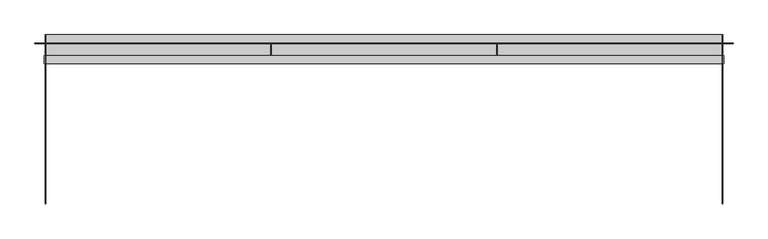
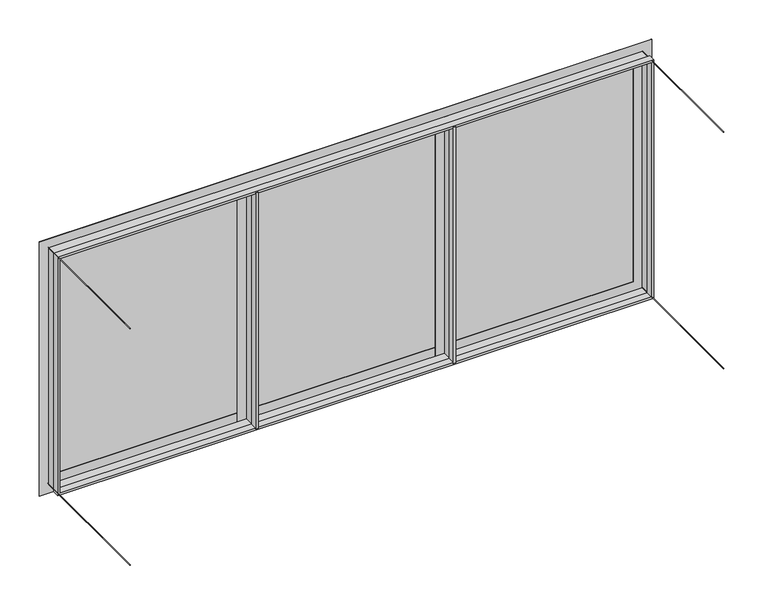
"""IFC4 building model written with IfcOpenShell, lengths in millimetres: plate geometry, Flush Ceiling Panel with Tee and Cable Ties (3 Segments) : Ceiling Panel (Vinyl) with Tee and Cable Ties Edge."""

import ifcopenshell
import ifcopenshell.guid

model = None  # the IFC model being written
_history = None  # IfcOwnerHistory: only IFC2X3 demands one
_inside = {}  # id of a spatial element -> (the spatial element, [elements in it])
_under = {}  # id of a project, library or spatial element -> (it, [spatial elements below it])
_declared = {}  # id of a project -> (the project, [libraries it declares])
_typed = {}  # id of a type object -> (the type object, [elements of that type])
_made_of = {}  # id of a material, layer set ... -> (it, [elements and type objects made of it])


def new_model(schema):
    """Start an empty IFC model of exactly this schema.

    Asked for "IFC4X3", IfcOpenShell would pick the latest addendum, in which some entities
    have other attributes; the version numbers below select the first issue.
    IFC2X3 requires an IfcOwnerHistory on every rooted entity: one is made here for all.
    """
    global model, _history
    if schema == "IFC4X3":
        model = ifcopenshell.file(schema_version=(4, 3, 0, 0))
    else:
        model = ifcopenshell.file(schema=schema)
    _inside.clear()
    _under.clear()
    _declared.clear()
    _typed.clear()
    _made_of.clear()
    _history = None
    if model.schema == "IFC2X3":
        org = make("IfcOrganization", Name="unknown")
        user = make(
            "IfcPersonAndOrganization",
            ThePerson=make("IfcPerson", FamilyName="unknown"),
            TheOrganization=org,
        )
        app = make(
            "IfcApplication",
            ApplicationDeveloper=org,
            Version="unknown",
            ApplicationFullName="unknown",
            ApplicationIdentifier="unknown",
        )
        _history = make(
            "IfcOwnerHistory",
            OwningUser=user,
            OwningApplication=app,
            ChangeAction="ADDED",
            CreationDate=0,
        )
    return model


def make(cls, **values):
    """One entity of the class cls with the attributes given. An attribute that is None is left unset."""
    return model.create_entity(
        cls, **{name: value for name, value in values.items() if value is not None}
    )


def rooted(cls, **values):
    """An entity with a GlobalId (a new one), such as an element, a storey or a relation."""
    return make(cls, GlobalId=ifcopenshell.guid.new(), OwnerHistory=_history, **values)


def si_unit(unit_type, name, prefix=None):
    """IfcSIUnit, for example si_unit("LENGTHUNIT", "METRE", prefix="MILLI")."""
    return make("IfcSIUnit", UnitType=unit_type, Prefix=prefix, Name=name)


def assignment(units):
    """IfcUnitAssignment: the units of a project."""
    return None if units is None else make("IfcUnitAssignment", Units=units)


def point(xyz):
    """IfcCartesianPoint."""
    return None if xyz is None else make("IfcCartesianPoint", Coordinates=xyz)


def direction(xyz):
    """IfcDirection."""
    return None if xyz is None else make("IfcDirection", DirectionRatios=xyz)


def frame(location, z_axis=None, x_axis=None):
    """IfcAxis2Placement3D, a coordinate frame: its origin and axes. An axis left out is left unset."""
    return make(
        "IfcAxis2Placement3D",
        Location=point(location),
        Axis=direction(z_axis),
        RefDirection=direction(x_axis),
    )


def frame_2d(location, x_axis=None):
    """IfcAxis2Placement2D, a coordinate frame in the plane: its origin and x axis."""
    return make(
        "IfcAxis2Placement2D", Location=point(location), RefDirection=direction(x_axis)
    )


def origin():
    """The frame at (0, 0, 0) with its axes left unset."""
    return frame((0.0, 0.0, 0.0))


def origin_with_axes():
    """The frame at (0, 0, 0) with the z axis (0, 0, 1) and the x axis (1, 0, 0) written out."""
    return frame((0.0, 0.0, 0.0), z_axis=(0.0, 0.0, 1.0), x_axis=(1.0, 0.0, 0.0))


def place(relative_to, where):
    """IfcLocalPlacement: puts the frame where relative to a parent placement (None: the world)."""
    return make(
        "IfcLocalPlacement", PlacementRelTo=relative_to, RelativePlacement=where
    )


def context(
    kind, dimensions, precision=None, world=None, true_north=None, identifier=None
):
    """IfcGeometricRepresentationContext, for example the 3D "Model" context."""
    return make(
        "IfcGeometricRepresentationContext",
        ContextIdentifier=identifier,
        ContextType=kind,
        CoordinateSpaceDimension=dimensions,
        Precision=precision,
        WorldCoordinateSystem=world,
        TrueNorth=true_north,
    )


def project(units=None, contexts=None):
    """IfcProject with its units and contexts."""
    return rooted(
        "IfcProject",
        Name="project",
        RepresentationContexts=contexts,
        UnitsInContext=assignment(units),
    )


def spatial(cls, under=None, at=None, **own):
    """A site, building, storey or space (cls), placed at a placement, below another one or the project."""
    s = rooted(cls, ObjectPlacement=at, **own)
    if under is not None:
        _under.setdefault(under.id(), (under, []))[1].append(s)
    return s


def polyline(points):
    """IfcPolyline through the points."""
    return make("IfcPolyline", Points=[point(p) for p in points])


def circle_curve(where, radius):
    """IfcCircle in the frame where."""
    return make("IfcCircle", Position=where, Radius=radius)


def trimmed(basis, trim1, trim2, sense, master):
    """IfcTrimmedCurve: the piece of a basis curve between two trims."""
    return make(
        "IfcTrimmedCurve",
        BasisCurve=basis,
        Trim1=trim1,
        Trim2=trim2,
        SenseAgreement=sense,
        MasterRepresentation=master,
    )


def segment(curve, same_sense, transition):
    """IfcCompositeCurveSegment."""
    return make(
        "IfcCompositeCurveSegment",
        Transition=transition,
        SameSense=same_sense,
        ParentCurve=curve,
    )


def composite_curve(segments, self_intersect=None):
    """IfcCompositeCurve: segments joined end to end."""
    return make("IfcCompositeCurve", Segments=segments, SelfIntersect=self_intersect)


def outline(outer, holes=None, kind="AREA"):
    """IfcArbitraryClosedProfileDef: a profile drawn as a closed curve; with holes, ...WithVoids."""
    if holes is None:
        return make("IfcArbitraryClosedProfileDef", ProfileType=kind, OuterCurve=outer)
    return make(
        "IfcArbitraryProfileDefWithVoids",
        ProfileType=kind,
        OuterCurve=outer,
        InnerCurves=holes,
    )


def extrude(swept, where, along, depth):
    """IfcExtrudedAreaSolid: the profile swept, set in the frame where, extruded along a direction by depth."""
    return make(
        "IfcExtrudedAreaSolid",
        SweptArea=swept,
        Position=where,
        ExtrudedDirection=direction(along),
        Depth=depth,
    )


def faces_of(points, faces, orient=None, outer=None):
    """IfcFace entities. A face is a list of loops; a loop is a list of indices into points, from 0.

    orient and outer hold one flag for each loop. By default every Orientation is true, the
    first loop of a face is its IfcFaceOuterBound and the others are IfcFaceBound.
    """
    made = []
    for i, loops in enumerate(faces):
        bounds = []
        for j, loop in enumerate(loops):
            is_outer = j == 0 if outer is None else outer[i][j]
            bounds.append(
                make(
                    "IfcFaceOuterBound" if is_outer else "IfcFaceBound",
                    Bound=make("IfcPolyLoop", Polygon=[points[k] for k in loop]),
                    Orientation=True if orient is None else orient[i][j],
                )
            )
        made.append(make("IfcFace", Bounds=bounds))
    return made


def faceted_brep(points, faces, orient=None, outer=None, voids=None):
    """IfcFacetedBrep: a solid bounded by flat faces; with voids (closed shells), ...WithVoids."""
    shared = [point(p) for p in points]
    hull = make("IfcClosedShell", CfsFaces=faces_of(shared, faces, orient, outer))
    if voids is None:
        return make("IfcFacetedBrep", Outer=hull)
    return make(
        "IfcFacetedBrepWithVoids",
        Outer=hull,
        Voids=[
            make(cls, CfsFaces=faces_of(shared, fs, o, b)) for cls, fs, o, b in voids
        ],
    )


def shape(context_of_items, identifier, shape_type, items):
    """IfcShapeRepresentation: the items that make up one representation, for example the "Body"."""
    return make(
        "IfcShapeRepresentation",
        ContextOfItems=context_of_items,
        RepresentationIdentifier=identifier,
        RepresentationType=shape_type,
        Items=items,
    )


def source(mapping_origin, context_of_items, identifier, shape_type, items):
    """IfcRepresentationMap: a shape defined once, which mapped items show again and again."""
    return make(
        "IfcRepresentationMap",
        MappingOrigin=mapping_origin,
        MappedRepresentation=shape(context_of_items, identifier, shape_type, items),
    )


def transform(
    local_origin,
    x_axis=None,
    y_axis=None,
    z_axis=None,
    scale=None,
    scale2=None,
    scale3=None,
    uniform=True,
):
    """IfcCartesianTransformationOperator3D, or its non-uniform kind. x_axis, y_axis, z_axis: its Axis1, 2, 3."""
    if uniform:
        return make(
            "IfcCartesianTransformationOperator3D",
            Axis1=direction(x_axis),
            Axis2=direction(y_axis),
            LocalOrigin=point(local_origin),
            Scale=scale,
            Axis3=direction(z_axis),
        )
    return make(
        "IfcCartesianTransformationOperator3DnonUniform",
        Axis1=direction(x_axis),
        Axis2=direction(y_axis),
        LocalOrigin=point(local_origin),
        Scale=scale,
        Axis3=direction(z_axis),
        Scale2=scale2,
        Scale3=scale3,
    )


def mapped(mapping_source, mapping_target):
    """IfcMappedItem: shows the shape of a source again, moved by a transform."""
    return make(
        "IfcMappedItem", MappingSource=mapping_source, MappingTarget=mapping_target
    )


def made_of(thing, what):
    """Note that an element or type object is made of a material, layer set ...; save() writes the relation."""
    if what is not None:
        _made_of.setdefault(what.id(), (what, []))[1].append(thing)
    return thing


def element(
    cls,
    number,
    at=None,
    inside=None,
    cuts=None,
    type_object=None,
    material=None,
    context=None,
    identifier="Body",
    shape_type=None,
    held_by="IfcProductDefinitionShape",
    body=None,
    shapes=None,
    **own,
):
    """One element of the class cls, such as IfcWall. Its Tag is "e" and its number.

    at: its placement. inside: the storey or other place that contains it. cuts: it is an
    opening in that element (IfcRelVoidsElement). A single representation is given by context,
    identifier, shape_type and body (its items); several are given by shapes. held_by: the class
    of the entity that holds the representations. save() writes the other relations.
    """
    e = rooted(cls, Tag="e%d" % number, ObjectPlacement=at, **own)
    if body is not None:
        shapes = [shape(context, identifier, shape_type, body)]
    if shapes is not None:
        e.Representation = make(held_by, Representations=shapes)
    if inside is not None:
        _inside.setdefault(inside.id(), (inside, []))[1].append(e)
    if cuts is not None:
        rooted(
            "IfcRelVoidsElement", RelatingBuildingElement=cuts, RelatedOpeningElement=e
        )
    if type_object is not None:
        _typed.setdefault(type_object.id(), (type_object, []))[1].append(e)
    return made_of(e, material)


def aggregate(whole, parts):
    """IfcRelAggregates: a whole, such as a stair, and the parts it consists of."""
    return rooted("IfcRelAggregates", RelatingObject=whole, RelatedObjects=parts)


def save(model, path):
    """Write the relations noted so far, then the file.

    IfcRelAggregates (storeys below a building ...), IfcRelContainedInSpatialStructure (elements
    in a storey), IfcRelDefinesByType, IfcRelAssociatesMaterial and IfcRelDeclares: one each for
    every whole, place, type object, material and project.
    """
    for whole, parts in _under.values():
        aggregate(whole, parts)
    for where, things in _inside.values():
        rooted(
            "IfcRelContainedInSpatialStructure",
            RelatedElements=things,
            RelatingStructure=where,
        )
    for kind, things in _typed.values():
        rooted("IfcRelDefinesByType", RelatedObjects=things, RelatingType=kind)
    for what, things in _made_of.values():
        rooted("IfcRelAssociatesMaterial", RelatedObjects=things, RelatingMaterial=what)
    for by, libraries in _declared.values():
        rooted("IfcRelDeclares", RelatingContext=by, RelatedDefinitions=libraries)
    model.write(path)


def plate_05c5f138(model_context):
    return source(origin(), model_context, "Body", "SolidModel", [
        extrude(outline(composite_curve([segment(trimmed(circle_curve(frame_2d((505.0, 600.0000002)), 0.5), [point((505.0, 600.5000002))], [point((505.0, 599.5000002))], False, "CARTESIAN"), True, "CONTINUOUS"), segment(trimmed(circle_curve(frame_2d((505.0, 600.0000002)), 0.5), [point((505.0, 599.5000002))], [point((505.0, 600.5000002))], False, "CARTESIAN"), True, "CONTINUOUS")], self_intersect=False)), frame((0.0, -300.0, 0.0), z_axis=(0.0, 1.0, 0.0), x_axis=(0.0, 0.0, 1.0)), (0.0, 0.0, 1.0), 300.0),
        extrude(outline(composite_curve([segment(trimmed(circle_curve(frame_2d((505.0, -600.0000002)), 0.5), [point((505.0, -599.5000002))], [point((505.0, -600.5000002))], False, "CARTESIAN"), True, "CONTINUOUS"), segment(trimmed(circle_curve(frame_2d((505.0, -600.0000002)), 0.5), [point((505.0, -600.5000002))], [point((505.0, -599.5000002))], False, "CARTESIAN"), True, "CONTINUOUS")], self_intersect=False)), frame((0.0, -300.0, 0.0), z_axis=(0.0, 1.0, 0.0), x_axis=(0.0, 0.0, 1.0)), (0.0, 0.0, 1.0), 300.0),
        extrude(outline(composite_curve([segment(trimmed(circle_curve(frame_2d((0.0, 600.0000002)), 0.5), [point((0.0, 600.5000002))], [point((0.0, 599.5000002))], False, "CARTESIAN"), True, "CONTINUOUS"), segment(trimmed(circle_curve(frame_2d((0.0, 600.0000002)), 0.5), [point((0.0, 599.5000002))], [point((0.0, 600.5000002))], False, "CARTESIAN"), True, "CONTINUOUS")], self_intersect=False)), frame((0.0, -300.0, 0.0), z_axis=(0.0, 1.0, 0.0), x_axis=(0.0, 0.0, 1.0)), (0.0, 0.0, 1.0), 300.0),
        extrude(outline(composite_curve([segment(trimmed(circle_curve(frame_2d((0.0, -600.0000002)), 0.5), [point((0.0, -599.5000002))], [point((0.0, -600.5000002))], False, "CARTESIAN"), True, "CONTINUOUS"), segment(trimmed(circle_curve(frame_2d((0.0, -600.0000002)), 0.5), [point((0.0, -600.5000002))], [point((0.0, -599.5000002))], False, "CARTESIAN"), True, "CONTINUOUS")], self_intersect=False)), frame((0.0, -300.0, 0.0), z_axis=(0.0, 1.0, 0.0), x_axis=(0.0, 0.0, 1.0)), (0.0, 0.0, 1.0), 300.0),
        extrude(outline(polyline([(219.0000001, -15.0), (219.0000001, -16.0), (200.5000001, -16.0), (200.5000001, -37.0), (202.5000001, -37.0), (202.5000001, -51.0), (197.5000001, -51.0), (197.5000001, -37.0), (199.5000001, -37.0), (199.5000001, -16.0), (181.0000001, -16.0), (181.0000001, -15.0), (219.0000001, -15.0)])), origin_with_axes(), (0.0, 0.0, 1.0), 505.0),
        extrude(outline(polyline([(-181.0000001, -15.0), (-181.0000001, -16.0), (-199.5000001, -16.0), (-199.5000001, -37.0), (-197.5000001, -37.0), (-197.5000001, -51.0), (-202.5000001, -51.0), (-202.5000001, -37.0), (-200.5000001, -37.0), (-200.5000001, -16.0), (-219.0000001, -16.0), (-219.0000001, -15.0), (-181.0000001, -15.0)])), origin_with_axes(), (0.0, 0.0, 1.0), 505.0),
        faceted_brep([(581.0000002, -16.0, 486.0), (581.0000002, -15.0, 486.0), (581.0000002, -15.0, 19.0), (581.0000002, -16.0, 19.0), (599.5000002, -37.0, 504.5), (599.5000002, -16.0, 504.5), (599.5000002, -16.0, 0.5), (599.5000002, -37.0, 0.5), (597.5000002, -51.0, 502.5), (597.5000002, -37.0, 502.5), (597.5000002, -37.0, 2.5), (597.5000002, -51.0, 2.5), (602.5000002, -37.0, 507.5), (602.5000002, -51.0, 507.5), (602.5000002, -51.0, -2.5), (602.5000002, -37.0, -2.5), (600.5000002, -16.0, 505.5), (600.5000002, -37.0, 505.5), (600.5000002, -37.0, -0.5), (600.5000002, -16.0, -0.5), (619.0000002, -15.0, 524.0), (619.0000002, -16.0, 524.0), (619.0000002, -16.0, -19.0), (619.0000002, -15.0, -19.0), (-581.0000002, -15.0, 19.0), (-581.0000002, -16.0, 19.0), (-599.5000002, -16.0, 0.5), (-599.5000002, -37.0, 0.5), (-597.5000002, -37.0, 2.5), (-597.5000002, -51.0, 2.5), (-602.5000002, -51.0, -2.5), (-602.5000002, -37.0, -2.5), (-600.5000002, -37.0, -0.5), (-600.5000002, -16.0, -0.5), (-619.0000002, -16.0, -19.0), (-619.0000002, -15.0, -19.0), (-581.0000002, -15.0, 486.0), (-581.0000002, -16.0, 486.0), (-599.5000002, -16.0, 504.5), (-599.5000002, -37.0, 504.5), (-597.5000002, -37.0, 502.5), (-597.5000002, -51.0, 502.5), (-602.5000002, -51.0, 507.5), (-602.5000002, -37.0, 507.5), (-600.5000002, -37.0, 505.5), (-600.5000002, -16.0, 505.5), (-619.0000002, -16.0, 524.0), (-619.0000002, -15.0, 524.0)], [[[0, 1, 2, 3]], [[4, 5, 6, 7]], [[8, 9, 10, 11]], [[12, 13, 14, 15]], [[16, 17, 18, 19]], [[20, 21, 22, 23]], [[3, 2, 24, 25]], [[7, 6, 26, 27]], [[11, 10, 28, 29]], [[15, 14, 30, 31]], [[19, 18, 32, 33]], [[23, 22, 34, 35]], [[25, 24, 36, 37]], [[27, 26, 38, 39]], [[29, 28, 40, 41]], [[31, 30, 42, 43]], [[33, 32, 44, 45]], [[35, 34, 46, 47]], [[23, 35, 47, 20], [1, 36, 24, 2]], [[37, 36, 1, 0]], [[5, 38, 26, 6], [3, 25, 37, 0]], [[39, 38, 5, 4]], [[7, 27, 39, 4], [9, 40, 28, 10]], [[41, 40, 9, 8]], [[13, 42, 30, 14], [11, 29, 41, 8]], [[43, 42, 13, 12]], [[15, 31, 43, 12], [17, 44, 32, 18]], [[45, 44, 17, 16]], [[21, 46, 34, 22], [19, 33, 45, 16]], [[47, 46, 21, 20]]]),
        extrude(outline(polyline([(600.0000002, -15.0), (-600.0000002, -15.0), (-600.0000002, 0.0), (600.0000002, 0.0), (600.0000002, -15.0)])), origin_with_axes(), (0.0, 0.0, 1.0), 505.0),
    ])


if __name__ == "__main__":
    model = new_model("IFC4")
    model_context = context("Model", 3, world=origin())
    ifc_project = project(units=[si_unit("LENGTHUNIT", "METRE", prefix="MILLI")], contexts=[model_context])
    site = spatial("IfcSite", under=ifc_project)
    building = spatial("IfcBuilding", under=site)
    placement = place(None, origin())
    plate_shape = plate_05c5f138(model_context)
    element("IfcPlate", 1, ObjectType="Flush Ceiling Panel with Tee and Cable Ties (3 Segments) : Ceiling Panel (Vinyl) with Tee and Cable Ties Edge", at=placement, inside=building, context=model_context, shape_type="MappedRepresentation", body=[
        mapped(plate_shape, transform((0.0, 0.0, 0.0), x_axis=(1.0, 0.0, 0.0), y_axis=(0.0, 1.0, 0.0), z_axis=(0.0, 0.0, 1.0))),
    ])
    save(model, "model.ifc")
